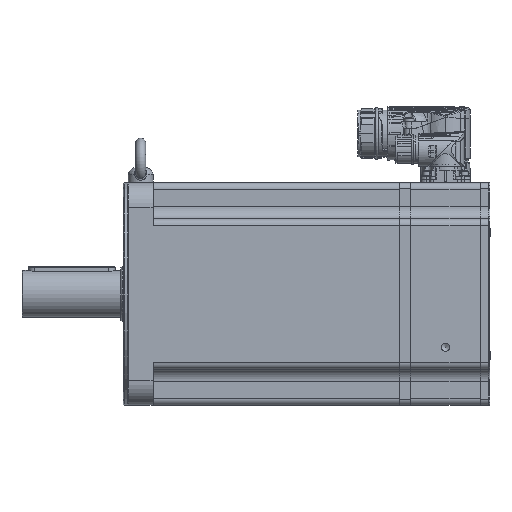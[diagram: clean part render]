
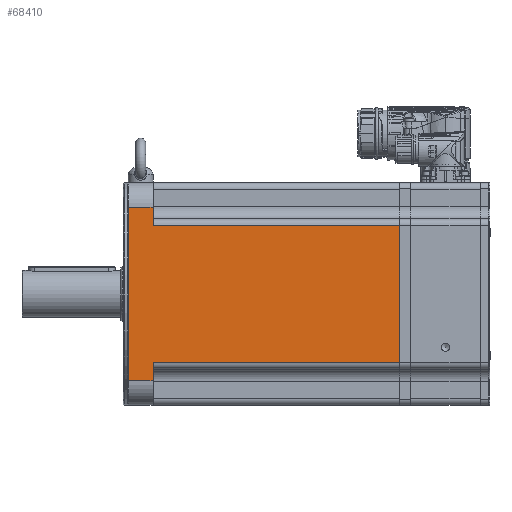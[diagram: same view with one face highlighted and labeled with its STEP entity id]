
A CAD part, left-side view. The second image highlights one B-rep face of the part: STEP entity #68410.
In plain terms, the highlighted planar face has unit normal (-1, 0, 0) as drawn and (1, 0, 0) by its records, which use the part's own axes.
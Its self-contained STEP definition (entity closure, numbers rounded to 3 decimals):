
#2097=PLANE('',#73081);
#7374=LINE('',#144424,#9893);
#7388=LINE('',#144499,#9907);
#7395=LINE('',#144544,#9914);
#7403=LINE('',#144568,#9922);
#7404=LINE('',#144569,#9923);
#7405=LINE('',#144571,#9924);
#7406=LINE('',#144573,#9925);
#7407=LINE('',#144574,#9926);
#9893=VECTOR('',#84596,1000.);
#9907=VECTOR('',#84664,1000.);
#9914=VECTOR('',#84709,1000.);
#9922=VECTOR('',#84733,1000.);
#9923=VECTOR('',#84734,1000.);
#9924=VECTOR('',#84735,1000.);
#9925=VECTOR('',#84736,1000.);
#9926=VECTOR('',#84737,1000.);
#23379=ORIENTED_EDGE('',*,*,#30369,.F.);
#23380=ORIENTED_EDGE('',*,*,#30435,.T.);
#23381=ORIENTED_EDGE('',*,*,#30403,.F.);
#23382=ORIENTED_EDGE('',*,*,#30436,.T.);
#23383=ORIENTED_EDGE('',*,*,#30437,.F.);
#23384=ORIENTED_EDGE('',*,*,#30438,.T.);
#23385=ORIENTED_EDGE('',*,*,#30423,.F.);
#23386=ORIENTED_EDGE('',*,*,#30439,.T.);
#30369=EDGE_CURVE('',#34925,#34926,#7374,.T.);
#30403=EDGE_CURVE('',#34959,#34960,#7388,.T.);
#30423=EDGE_CURVE('',#34979,#34980,#7395,.T.);
#30435=EDGE_CURVE('',#34925,#34960,#7403,.F.);
#30436=EDGE_CURVE('',#34959,#34987,#7404,.T.);
#30437=EDGE_CURVE('',#34988,#34987,#7405,.T.);
#30438=EDGE_CURVE('',#34988,#34980,#7406,.F.);
#30439=EDGE_CURVE('',#34979,#34926,#7407,.T.);
#34925=VERTEX_POINT('',#144423);
#34926=VERTEX_POINT('',#144425);
#34959=VERTEX_POINT('',#144498);
#34960=VERTEX_POINT('',#144500);
#34979=VERTEX_POINT('',#144545);
#34980=VERTEX_POINT('',#144546);
#34987=VERTEX_POINT('',#144570);
#34988=VERTEX_POINT('',#144572);
#40627=EDGE_LOOP('',(#23379,#23380,#23381,#23382,#23383,#23384,#23385,#23386));
#44408=FACE_BOUND('',#40627,.T.);
#68410=ADVANCED_FACE('',(#44408),#2097,.T.);
#73081=AXIS2_PLACEMENT_3D('',#144567,#84731,#84732);
#84596=DIRECTION('',(0.,0.,-1.));
#84664=DIRECTION('',(0.,0.,-1.));
#84709=DIRECTION('',(0.,0.,-1.));
#84731=DIRECTION('',(1.,0.,0.));
#84732=DIRECTION('',(0.,1.,0.));
#84733=DIRECTION('',(0.,1.,0.));
#84734=DIRECTION('',(0.,-1.,0.));
#84735=DIRECTION('',(0.,0.,1.));
#84736=DIRECTION('',(0.,-1.,0.));
#84737=DIRECTION('',(0.,1.,0.));
#144423=CARTESIAN_POINT('',(90.,220.8,55.2));
#144424=CARTESIAN_POINT('',(90.,220.8,-90.));
#144425=CARTESIAN_POINT('',(90.,220.8,-55.2));
#144498=CARTESIAN_POINT('',(90.,21.3,70.));
#144499=CARTESIAN_POINT('',(90.,21.3,-90.));
#144500=CARTESIAN_POINT('',(90.,21.3,55.2));
#144544=CARTESIAN_POINT('',(90.,21.3,-90.));
#144545=CARTESIAN_POINT('',(90.,21.3,-55.2));
#144546=CARTESIAN_POINT('',(90.,21.3,-70.));
#144567=CARTESIAN_POINT('',(90.,488.463,-90.));
#144568=CARTESIAN_POINT('',(90.,488.463,55.2));
#144569=CARTESIAN_POINT('',(90.,488.463,70.));
#144570=CARTESIAN_POINT('',(90.,1.3,70.));
#144571=CARTESIAN_POINT('',(90.,1.3,-90.));
#144572=CARTESIAN_POINT('',(90.,1.3,-70.));
#144573=CARTESIAN_POINT('',(90.,488.463,-70.));
#144574=CARTESIAN_POINT('',(90.,488.463,-55.2));
